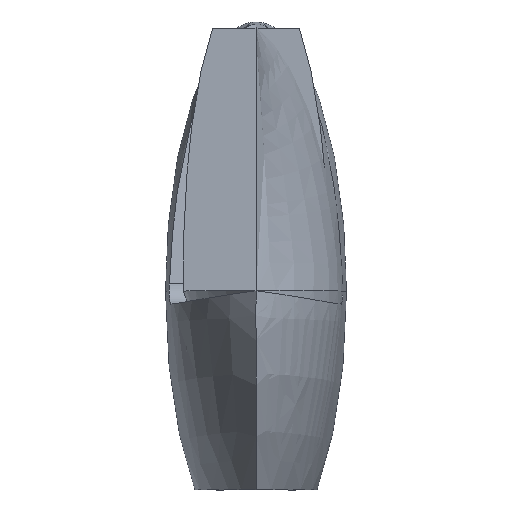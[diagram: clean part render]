
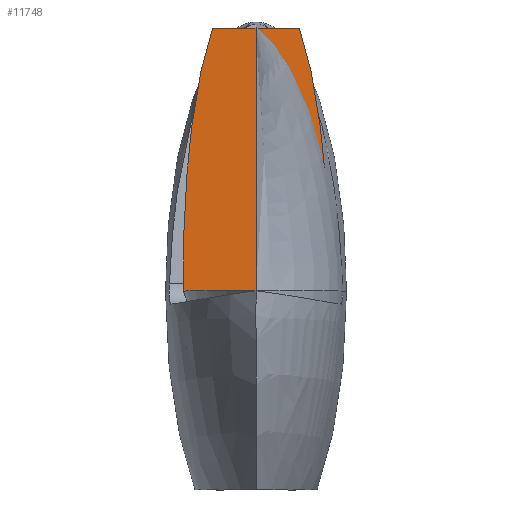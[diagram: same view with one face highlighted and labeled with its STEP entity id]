
A CAD part, top view. The second image highlights one B-rep face of the part: STEP entity #11748.
In plain terms, the highlighted planar face has unit normal (0, 0, 1).
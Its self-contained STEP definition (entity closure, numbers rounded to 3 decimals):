
#11094=CARTESIAN_POINT('',(-143.003,394.536,190.0));
#11095=VERTEX_POINT('',#11094);
#11120=CARTESIAN_POINT('',(-90.,694.842,190.0));
#11121=VERTEX_POINT('',#11120);
#11122=CARTESIAN_POINT('',(-90.0,694.842,190.0));
#11123=CARTESIAN_POINT('',(-91.763,689.749,190.0));
#11124=CARTESIAN_POINT('',(-94.433,681.646,190.));
#11125=CARTESIAN_POINT('',(-97.998,669.944,190.));
#11126=CARTESIAN_POINT('',(-100.663,660.733,190.));
#11127=CARTESIAN_POINT('',(-103.308,651.101,190.));
#11128=CARTESIAN_POINT('',(-105.922,641.07,190.));
#11129=CARTESIAN_POINT('',(-108.496,630.662,190.));
#11130=CARTESIAN_POINT('',(-111.3,618.708,190.));
#11131=CARTESIAN_POINT('',(-114.301,605.101,190.));
#11132=CARTESIAN_POINT('',(-116.927,592.321,190.));
#11133=CARTESIAN_POINT('',(-118.957,581.895,190.));
#11134=CARTESIAN_POINT('',(-120.938,571.351,190.));
#11135=CARTESIAN_POINT('',(-124.27,552.631,190.));
#11136=CARTESIAN_POINT('',(-128.614,525.378,190.));
#11137=CARTESIAN_POINT('',(-131.977,500.922,190.));
#11138=CARTESIAN_POINT('',(-133.987,484.954,190.));
#11139=CARTESIAN_POINT('',(-135.264,474.419,190.));
#11140=CARTESIAN_POINT('',(-136.746,461.498,190.));
#11141=CARTESIAN_POINT('',(-138.341,446.515,190.));
#11142=CARTESIAN_POINT('',(-139.997,429.794,190.));
#11143=CARTESIAN_POINT('',(-141.604,411.979,190.0));
#11144=CARTESIAN_POINT('',(-142.573,400.064,190.0));
#11145=CARTESIAN_POINT('',(-143.003,394.536,190.0));
#11146=B_SPLINE_CURVE_WITH_KNOTS('',3,(#11122,#11123,#11124,#11125,#11126,#11127,#11128,#11129,#11130,#11131,#11132,#11133,#11134,#11135,#11136,#11137,#11138,#11139,#11140,#11141,#11142,#11143,#11144,#11145),.UNSPECIFIED.,.F.,.U.,(4,1,1,1,1,1,1,1,1,1,1,1,1,1,1,1,1,1,1,1,1,4),(-1.0,-0.929,-0.893,-0.857,-0.821,-0.786,-0.75,-0.714,-0.667,-0.619,-0.595,-0.571,-0.524,-0.429,-0.333,-0.31,-0.286,-0.238,-0.19,-0.143,-0.071,0.0),.UNSPECIFIED.);
#11147=EDGE_CURVE('',#11121,#11095,#11146,.T.);
#11284=CARTESIAN_POINT('',(-150.,150.,190.0));
#11285=VERTEX_POINT('',#11284);
#11307=CARTESIAN_POINT('',(-143.003,394.536,190.0));
#11308=CARTESIAN_POINT('',(-145.585,361.372,190.0));
#11309=CARTESIAN_POINT('',(-148.786,304.218,190.0));
#11310=CARTESIAN_POINT('',(-150.6,221.65,190.));
#11311=CARTESIAN_POINT('',(-150.405,173.884,190.0));
#11312=CARTESIAN_POINT('',(-150.0,150.,190.0));
#11313=B_SPLINE_CURVE_WITH_KNOTS('',3,(#11307,#11308,#11309,#11310,#11311,#11312),.UNSPECIFIED.,.F.,.U.,(4,1,1,4),(-1.0,-0.571,-0.286,0.0),.UNSPECIFIED.);
#11314=EDGE_CURVE('',#11095,#11285,#11313,.T.);
#11685=CARTESIAN_POINT('',(-0.571,-1.199,190.0));
#11686=DIRECTION('',(0.0,0.0,1.0));
#11687=DIRECTION('',(1.0,0.0,0.0));
#11688=AXIS2_PLACEMENT_3D('',#11685,#11686,#11687);
#11689=PLANE('',#11688);
#11690=CARTESIAN_POINT('',(150.,150.,190.0));
#11691=VERTEX_POINT('',#11690);
#11692=CARTESIAN_POINT('',(150.,150.0,190.0));
#11693=DIRECTION('',(-1.0,0.0,0.0));
#11694=VECTOR('',#11693,300.);
#11695=LINE('',#11692,#11694);
#11696=EDGE_CURVE('',#11691,#11285,#11695,.T.);
#11697=ORIENTED_EDGE('',*,*,#11696,.F.);
#11698=CARTESIAN_POINT('',(143.003,394.536,190.0));
#11699=VERTEX_POINT('',#11698);
#11700=CARTESIAN_POINT('',(143.003,394.536,190.0));
#11701=CARTESIAN_POINT('',(145.585,361.372,190.0));
#11702=CARTESIAN_POINT('',(148.786,304.218,190.0));
#11703=CARTESIAN_POINT('',(150.6,221.65,190.));
#11704=CARTESIAN_POINT('',(150.405,173.884,190.0));
#11705=CARTESIAN_POINT('',(150.0,150.,190.0));
#11706=B_SPLINE_CURVE_WITH_KNOTS('',3,(#11700,#11701,#11702,#11703,#11704,#11705),.UNSPECIFIED.,.F.,.U.,(4,1,1,4),(-1.0,-0.571,-0.286,0.0),.UNSPECIFIED.);
#11707=EDGE_CURVE('',#11699,#11691,#11706,.T.);
#11708=ORIENTED_EDGE('',*,*,#11707,.F.);
#11709=CARTESIAN_POINT('',(90.,694.842,190.0));
#11710=VERTEX_POINT('',#11709);
#11711=CARTESIAN_POINT('',(90.0,694.842,190.0));
#11712=CARTESIAN_POINT('',(91.763,689.749,190.0));
#11713=CARTESIAN_POINT('',(94.433,681.646,190.));
#11714=CARTESIAN_POINT('',(97.998,669.944,190.));
#11715=CARTESIAN_POINT('',(100.663,660.733,190.));
#11716=CARTESIAN_POINT('',(103.308,651.101,190.));
#11717=CARTESIAN_POINT('',(105.922,641.07,190.));
#11718=CARTESIAN_POINT('',(108.496,630.662,190.));
#11719=CARTESIAN_POINT('',(111.3,618.708,190.));
#11720=CARTESIAN_POINT('',(114.301,605.101,190.));
#11721=CARTESIAN_POINT('',(116.927,592.321,190.));
#11722=CARTESIAN_POINT('',(118.957,581.895,190.));
#11723=CARTESIAN_POINT('',(120.938,571.351,190.));
#11724=CARTESIAN_POINT('',(124.27,552.631,190.));
#11725=CARTESIAN_POINT('',(128.614,525.378,190.));
#11726=CARTESIAN_POINT('',(131.977,500.922,190.));
#11727=CARTESIAN_POINT('',(133.987,484.954,190.));
#11728=CARTESIAN_POINT('',(135.264,474.419,190.));
#11729=CARTESIAN_POINT('',(136.746,461.498,190.));
#11730=CARTESIAN_POINT('',(138.341,446.515,190.));
#11731=CARTESIAN_POINT('',(139.997,429.794,190.));
#11732=CARTESIAN_POINT('',(141.604,411.979,190.0));
#11733=CARTESIAN_POINT('',(142.573,400.064,190.0));
#11734=CARTESIAN_POINT('',(143.003,394.536,190.0));
#11735=B_SPLINE_CURVE_WITH_KNOTS('',3,(#11711,#11712,#11713,#11714,#11715,#11716,#11717,#11718,#11719,#11720,#11721,#11722,#11723,#11724,#11725,#11726,#11727,#11728,#11729,#11730,#11731,#11732,#11733,#11734),.UNSPECIFIED.,.F.,.U.,(4,1,1,1,1,1,1,1,1,1,1,1,1,1,1,1,1,1,1,1,1,4),(-1.0,-0.929,-0.893,-0.857,-0.821,-0.786,-0.75,-0.714,-0.667,-0.619,-0.595,-0.571,-0.524,-0.429,-0.333,-0.31,-0.286,-0.238,-0.19,-0.143,-0.071,0.0),.UNSPECIFIED.);
#11736=EDGE_CURVE('',#11710,#11699,#11735,.T.);
#11737=ORIENTED_EDGE('',*,*,#11736,.F.);
#11738=CARTESIAN_POINT('',(-90.,694.842,190.0));
#11739=DIRECTION('',(1.0,0.0,0.0));
#11740=VECTOR('',#11739,180.);
#11741=LINE('',#11738,#11740);
#11742=EDGE_CURVE('',#11121,#11710,#11741,.T.);
#11743=ORIENTED_EDGE('',*,*,#11742,.F.);
#11744=ORIENTED_EDGE('',*,*,#11147,.T.);
#11745=ORIENTED_EDGE('',*,*,#11314,.T.);
#11746=EDGE_LOOP('',(#11697,#11708,#11737,#11743,#11744,#11745));
#11747=FACE_OUTER_BOUND('',#11746,.T.);
#11748=ADVANCED_FACE('',(#11747),#11689,.T.);
